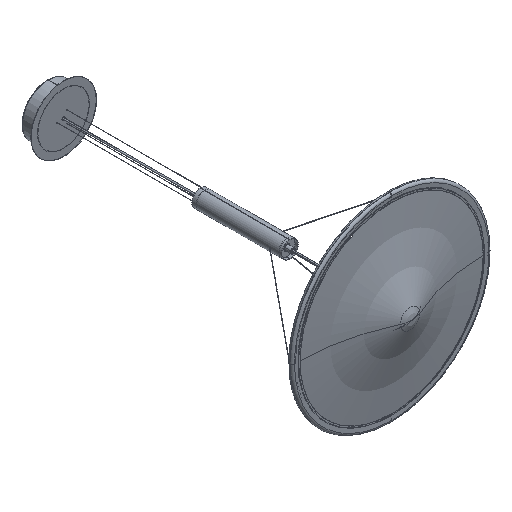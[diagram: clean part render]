
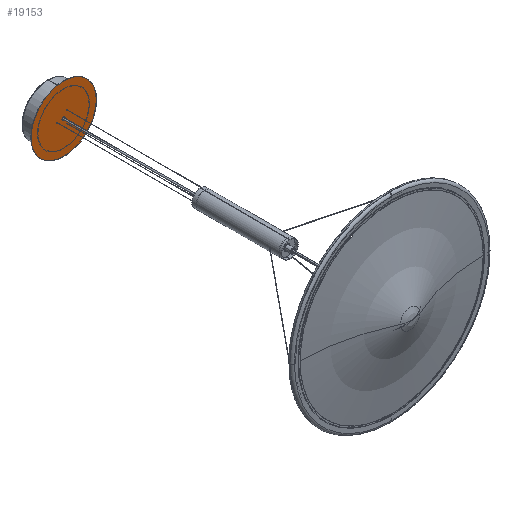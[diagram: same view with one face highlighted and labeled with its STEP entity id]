
A CAD part, isometric view. The second image highlights one B-rep face of the part: STEP entity #19153.
In plain terms, the highlighted planar face has unit normal (0, -1, 0) as drawn and (0, 1, 0) by its records, which use the part's own axes.
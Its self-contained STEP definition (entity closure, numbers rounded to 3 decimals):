
#145 = VERTEX_POINT ( 'NONE', #7403 ) ;
#602 = VERTEX_POINT ( 'NONE', #7610 ) ;
#1131 = CIRCLE ( 'NONE', #14494, 5.25 ) ;
#1171 = ORIENTED_EDGE ( 'NONE', *, *, #4487, .F. ) ;
#1390 = CIRCLE ( 'NONE', #7886, 1. ) ;
#1585 = EDGE_CURVE ( 'NONE', #25188, #2109, #20085, .T. ) ;
#2109 = VERTEX_POINT ( 'NONE', #13215 ) ;
#2694 = ORIENTED_EDGE ( 'NONE', *, *, #26134, .F. ) ;
#3417 = EDGE_CURVE ( 'NONE', #10181, #26596, #10623, .T. ) ;
#3483 = EDGE_CURVE ( 'NONE', #602, #12360, #1131, .T. ) ;
#3796 = VERTEX_POINT ( 'NONE', #11710 ) ;
#3831 = AXIS2_PLACEMENT_3D ( 'NONE', #18387, #23984, #5388 ) ;
#4069 = AXIS2_PLACEMENT_3D ( 'NONE', #23329, #4727, #9057 ) ;
#4487 = EDGE_CURVE ( 'NONE', #3796, #145, #20899, .T. ) ;
#4727 = DIRECTION ( 'NONE',  ( 0., 1., 0. ) ) ;
#5348 = DIRECTION ( 'NONE',  ( 0., 1., 0. ) ) ;
#5388 = DIRECTION ( 'NONE',  ( 0., 0., 1. ) ) ;
#6206 = DIRECTION ( 'NONE',  ( 0., 0., 1. ) ) ;
#6449 = ORIENTED_EDGE ( 'NONE', *, *, #10987, .T. ) ;
#6747 = CARTESIAN_POINT ( 'NONE',  ( 0., 1.5, 5.25 ) ) ;
#6764 = DIRECTION ( 'NONE',  ( -0.866, 0., -0.5 ) ) ;
#7298 = CIRCLE ( 'NONE', #3831, 115. ) ;
#7375 = FACE_BOUND ( 'NONE', #20439, .T. ) ;
#7403 = CARTESIAN_POINT ( 'NONE',  ( -11.134, 1.5, 21.285 ) ) ;
#7603 = ORIENTED_EDGE ( 'NONE', *, *, #11397, .T. ) ;
#7610 = CARTESIAN_POINT ( 'NONE',  ( 0., 1.5, -5.25 ) ) ;
#7770 = FACE_BOUND ( 'NONE', #15399, .T. ) ;
#7886 = AXIS2_PLACEMENT_3D ( 'NONE', #15843, #9471, #23600 ) ;
#8375 = DIRECTION ( 'NONE',  ( 0., 1., 0. ) ) ;
#8609 = CARTESIAN_POINT ( 'NONE',  ( 24., 1.5, 0. ) ) ;
#8761 = AXIS2_PLACEMENT_3D ( 'NONE', #25893, #19625, #6764 ) ;
#8803 = CARTESIAN_POINT ( 'NONE',  ( 24., 1.5, 1. ) ) ;
#9057 = DIRECTION ( 'NONE',  ( 0.866, 0., -0.5 ) ) ;
#9471 = DIRECTION ( 'NONE',  ( 0., 1., 0. ) ) ;
#9610 = DIRECTION ( 'NONE',  ( 0.866, 0., -0.5 ) ) ;
#9611 = ORIENTED_EDGE ( 'NONE', *, *, #20518, .F. ) ;
#9612 = CIRCLE ( 'NONE', #26092, 1. ) ;
#9681 = CARTESIAN_POINT ( 'NONE',  ( 0., 1.5, -115. ) ) ;
#9757 = DIRECTION ( 'NONE',  ( 0., 1., 0. ) ) ;
#10084 = DIRECTION ( 'NONE',  ( 0., 1., 0. ) ) ;
#10181 = VERTEX_POINT ( 'NONE', #8803 ) ;
#10380 = EDGE_LOOP ( 'NONE', ( #18743, #2694 ) ) ;
#10397 = CIRCLE ( 'NONE', #19491, 1. ) ;
#10514 = DIRECTION ( 'NONE',  ( 0., 0., 1. ) ) ;
#10623 = CIRCLE ( 'NONE', #22780, 1. ) ;
#10987 = EDGE_CURVE ( 'NONE', #26103, #20771, #23750, .T. ) ;
#11397 = EDGE_CURVE ( 'NONE', #20771, #26103, #7298, .T. ) ;
#11427 = PLANE ( 'NONE',  #20385 ) ;
#11567 = FACE_BOUND ( 'NONE', #10380, .T. ) ;
#11710 = CARTESIAN_POINT ( 'NONE',  ( -12.866, 1.5, 20.285 ) ) ;
#11818 = DIRECTION ( 'NONE',  ( 0., 0., 1. ) ) ;
#12210 = CARTESIAN_POINT ( 'NONE',  ( 0., 1.5, 0. ) ) ;
#12360 = VERTEX_POINT ( 'NONE', #6747 ) ;
#13189 = DIRECTION ( 'NONE',  ( 0., 1., 0. ) ) ;
#13215 = CARTESIAN_POINT ( 'NONE',  ( -11.134, 1.5, -21.285 ) ) ;
#13717 = FACE_BOUND ( 'NONE', #20915, .T. ) ;
#14419 = CARTESIAN_POINT ( 'NONE',  ( 0., 1.5, 115. ) ) ;
#14494 = AXIS2_PLACEMENT_3D ( 'NONE', #26123, #13189, #23535 ) ;
#14696 = CARTESIAN_POINT ( 'NONE',  ( 0., 1.5, 0. ) ) ;
#14919 = ORIENTED_EDGE ( 'NONE', *, *, #22335, .F. ) ;
#15399 = EDGE_LOOP ( 'NONE', ( #19801, #22934 ) ) ;
#15623 = CARTESIAN_POINT ( 'NONE',  ( 0., 1.5, 0. ) ) ;
#15707 = EDGE_CURVE ( 'NONE', #12360, #602, #25328, .T. ) ;
#15843 = CARTESIAN_POINT ( 'NONE',  ( -12., 1.5, 20.785 ) ) ;
#16139 = DIRECTION ( 'NONE',  ( 0., 1., 0. ) ) ;
#16142 = CARTESIAN_POINT ( 'NONE',  ( 24., 1.5, -1. ) ) ;
#16349 = AXIS2_PLACEMENT_3D ( 'NONE', #14696, #8375, #6206 ) ;
#17893 = CARTESIAN_POINT ( 'NONE',  ( -12., 1.5, -20.785 ) ) ;
#18217 = CARTESIAN_POINT ( 'NONE',  ( 24., 1.5, 0. ) ) ;
#18387 = CARTESIAN_POINT ( 'NONE',  ( 0., 1.5, 0. ) ) ;
#18743 = ORIENTED_EDGE ( 'NONE', *, *, #3417, .F. ) ;
#19153 = ADVANCED_FACE ( 'NONE', ( #23943, #13717, #7375, #11567, #7770 ), #11427, .T. ) ;
#19491 = AXIS2_PLACEMENT_3D ( 'NONE', #18217, #10084, #26516 ) ;
#19625 = DIRECTION ( 'NONE',  ( 0., 1., 0. ) ) ;
#19801 = ORIENTED_EDGE ( 'NONE', *, *, #15707, .F. ) ;
#20085 = CIRCLE ( 'NONE', #4069, 1. ) ;
#20125 = DIRECTION ( 'NONE',  ( 1., 0., 0. ) ) ;
#20385 = AXIS2_PLACEMENT_3D ( 'NONE', #15623, #5348, #20125 ) ;
#20439 = EDGE_LOOP ( 'NONE', ( #14919, #23775 ) ) ;
#20518 = EDGE_CURVE ( 'NONE', #145, #3796, #1390, .T. ) ;
#20771 = VERTEX_POINT ( 'NONE', #14419 ) ;
#20899 = CIRCLE ( 'NONE', #8761, 1. ) ;
#20915 = EDGE_LOOP ( 'NONE', ( #1171, #9611 ) ) ;
#22335 = EDGE_CURVE ( 'NONE', #2109, #25188, #9612, .T. ) ;
#22780 = AXIS2_PLACEMENT_3D ( 'NONE', #8609, #25319, #10514 ) ;
#22934 = ORIENTED_EDGE ( 'NONE', *, *, #3483, .F. ) ;
#23299 = CARTESIAN_POINT ( 'NONE',  ( -12.866, 1.5, -20.285 ) ) ;
#23329 = CARTESIAN_POINT ( 'NONE',  ( -12., 1.5, -20.785 ) ) ;
#23535 = DIRECTION ( 'NONE',  ( 0., 0., 1. ) ) ;
#23595 = AXIS2_PLACEMENT_3D ( 'NONE', #12210, #16139, #11818 ) ;
#23600 = DIRECTION ( 'NONE',  ( -0.866, 0., -0.5 ) ) ;
#23750 = CIRCLE ( 'NONE', #16349, 115. ) ;
#23775 = ORIENTED_EDGE ( 'NONE', *, *, #1585, .F. ) ;
#23943 = FACE_OUTER_BOUND ( 'NONE', #24998, .T. ) ;
#23984 = DIRECTION ( 'NONE',  ( 0., 1., 0. ) ) ;
#24998 = EDGE_LOOP ( 'NONE', ( #6449, #7603 ) ) ;
#25188 = VERTEX_POINT ( 'NONE', #23299 ) ;
#25319 = DIRECTION ( 'NONE',  ( 0., 1., 0. ) ) ;
#25328 = CIRCLE ( 'NONE', #23595, 5.25 ) ;
#25893 = CARTESIAN_POINT ( 'NONE',  ( -12., 1.5, 20.785 ) ) ;
#26092 = AXIS2_PLACEMENT_3D ( 'NONE', #17893, #9757, #9610 ) ;
#26103 = VERTEX_POINT ( 'NONE', #9681 ) ;
#26123 = CARTESIAN_POINT ( 'NONE',  ( 0., 1.5, 0. ) ) ;
#26134 = EDGE_CURVE ( 'NONE', #26596, #10181, #10397, .T. ) ;
#26516 = DIRECTION ( 'NONE',  ( 0., 0., 1. ) ) ;
#26596 = VERTEX_POINT ( 'NONE', #16142 ) ;
